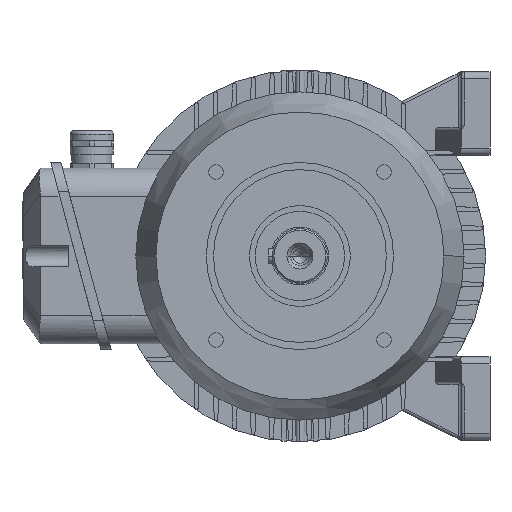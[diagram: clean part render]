
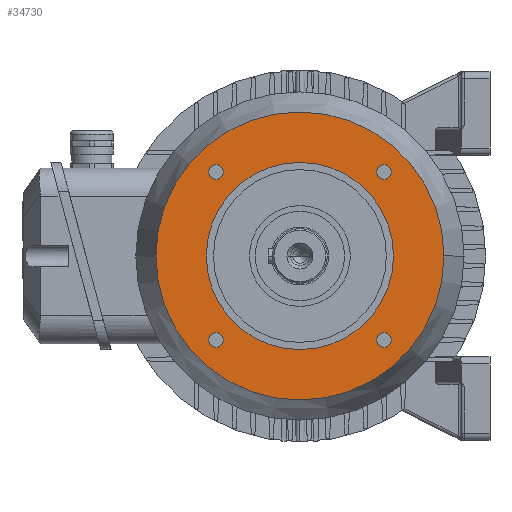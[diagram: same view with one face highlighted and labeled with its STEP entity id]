
A CAD part, left-side view. The second image highlights one B-rep face of the part: STEP entity #34730.
In plain terms, the highlighted planar face has unit normal (-1, 0, 0).
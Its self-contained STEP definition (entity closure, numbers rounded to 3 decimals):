
#75 = EDGE_CURVE ( 'NONE', #23684, #24344, #17290, .T. ) ;
#246 = AXIS2_PLACEMENT_3D ( 'NONE', #16334, #2912, #5241 ) ;
#512 = CIRCLE ( 'NONE', #8240, 5. ) ;
#1087 = CARTESIAN_POINT ( 'NONE',  ( -70., 100., 0. ) ) ;
#1116 = FACE_BOUND ( 'NONE', #2002, .T. ) ;
#1178 = EDGE_CURVE ( 'NONE', #20405, #22357, #2424, .T. ) ;
#1237 = EDGE_CURVE ( 'NONE', #24344, #23684, #20249, .T. ) ;
#1837 = CARTESIAN_POINT ( 'NONE',  ( -70., 58.336, -58.336 ) ) ;
#2002 = EDGE_LOOP ( 'NONE', ( #11729, #31726 ) ) ;
#2424 = CIRCLE ( 'NONE', #14153, 100. ) ;
#2762 = AXIS2_PLACEMENT_3D ( 'NONE', #32836, #32968, #10234 ) ;
#2912 = DIRECTION ( 'NONE',  ( 1., 0., 0. ) ) ;
#3826 = VERTEX_POINT ( 'NONE', #20651 ) ;
#3833 = EDGE_LOOP ( 'NONE', ( #7100, #27347 ) ) ;
#4234 = EDGE_CURVE ( 'NONE', #3826, #15112, #512, .T. ) ;
#4308 = CARTESIAN_POINT ( 'NONE',  ( -70., -58.336, -58.336 ) ) ;
#4520 = VERTEX_POINT ( 'NONE', #13128 ) ;
#4715 = CARTESIAN_POINT ( 'NONE',  ( -70., 0., 0. ) ) ;
#4774 = AXIS2_PLACEMENT_3D ( 'NONE', #4308, #7108, #29443 ) ;
#4821 = AXIS2_PLACEMENT_3D ( 'NONE', #31637, #20258, #26137 ) ;
#5241 = DIRECTION ( 'NONE',  ( 0., 1., 0. ) ) ;
#5412 = EDGE_CURVE ( 'NONE', #11417, #7725, #14365, .T. ) ;
#5775 = EDGE_LOOP ( 'NONE', ( #24912, #35528 ) ) ;
#5835 = DIRECTION ( 'NONE',  ( -1., 0., 0. ) ) ;
#6402 = EDGE_CURVE ( 'NONE', #22999, #25065, #23940, .T. ) ;
#7100 = ORIENTED_EDGE ( 'NONE', *, *, #24157, .F. ) ;
#7108 = DIRECTION ( 'NONE',  ( -1., 0., 0. ) ) ;
#7410 = CARTESIAN_POINT ( 'NONE',  ( -70., -53.336, 58.336 ) ) ;
#7725 = VERTEX_POINT ( 'NONE', #23985 ) ;
#7781 = CARTESIAN_POINT ( 'NONE',  ( -70., 0., 0. ) ) ;
#7972 = CARTESIAN_POINT ( 'NONE',  ( -70., 53.336, -58.336 ) ) ;
#8240 = AXIS2_PLACEMENT_3D ( 'NONE', #10840, #5835, #28047 ) ;
#8375 = CIRCLE ( 'NONE', #33959, 65. ) ;
#8729 = ORIENTED_EDGE ( 'NONE', *, *, #22396, .T. ) ;
#9727 = CIRCLE ( 'NONE', #2762, 5. ) ;
#9914 = DIRECTION ( 'NONE',  ( -1., 0., 0. ) ) ;
#10234 = DIRECTION ( 'NONE',  ( 0., -1., 0. ) ) ;
#10440 = ORIENTED_EDGE ( 'NONE', *, *, #6402, .F. ) ;
#10840 = CARTESIAN_POINT ( 'NONE',  ( -70., -58.336, -58.336 ) ) ;
#11417 = VERTEX_POINT ( 'NONE', #19911 ) ;
#11635 = CIRCLE ( 'NONE', #4774, 5. ) ;
#11729 = ORIENTED_EDGE ( 'NONE', *, *, #1237, .F. ) ;
#11816 = PLANE ( 'NONE',  #16091 ) ;
#12386 = CARTESIAN_POINT ( 'NONE',  ( -70., 0., 0. ) ) ;
#12729 = AXIS2_PLACEMENT_3D ( 'NONE', #13728, #25075, #25194 ) ;
#13128 = CARTESIAN_POINT ( 'NONE',  ( -70., -65., 0. ) ) ;
#13728 = CARTESIAN_POINT ( 'NONE',  ( -70., -58.336, 58.336 ) ) ;
#14153 = AXIS2_PLACEMENT_3D ( 'NONE', #7781, #27188, #18738 ) ;
#14365 = CIRCLE ( 'NONE', #32380, 5. ) ;
#14417 = CIRCLE ( 'NONE', #24864, 100. ) ;
#15112 = VERTEX_POINT ( 'NONE', #29586 ) ;
#15467 = AXIS2_PLACEMENT_3D ( 'NONE', #28694, #18066, #17808 ) ;
#16091 = AXIS2_PLACEMENT_3D ( 'NONE', #20453, #34286, #17907 ) ;
#16334 = CARTESIAN_POINT ( 'NONE',  ( -70., 0., 0. ) ) ;
#16845 = EDGE_CURVE ( 'NONE', #15112, #3826, #11635, .T. ) ;
#17094 = CIRCLE ( 'NONE', #246, 65. ) ;
#17290 = CIRCLE ( 'NONE', #4821, 5. ) ;
#17808 = DIRECTION ( 'NONE',  ( 0., -1., 0. ) ) ;
#17907 = DIRECTION ( 'NONE',  ( 0., 1., 0. ) ) ;
#18066 = DIRECTION ( 'NONE',  ( -1., 0., 0. ) ) ;
#18482 = DIRECTION ( 'NONE',  ( 0., 1., 0. ) ) ;
#18738 = DIRECTION ( 'NONE',  ( 0., 1., 0. ) ) ;
#19418 = FACE_BOUND ( 'NONE', #22295, .T. ) ;
#19704 = EDGE_CURVE ( 'NONE', #7725, #11417, #9727, .T. ) ;
#19911 = CARTESIAN_POINT ( 'NONE',  ( -70., 53.336, 58.336 ) ) ;
#20249 = CIRCLE ( 'NONE', #29622, 5. ) ;
#20258 = DIRECTION ( 'NONE',  ( -1., 0., 0. ) ) ;
#20405 = VERTEX_POINT ( 'NONE', #31982 ) ;
#20453 = CARTESIAN_POINT ( 'NONE',  ( -70., 65., 0. ) ) ;
#20651 = CARTESIAN_POINT ( 'NONE',  ( -70., -63.336, -58.336 ) ) ;
#20768 = ORIENTED_EDGE ( 'NONE', *, *, #16845, .F. ) ;
#21173 = FACE_OUTER_BOUND ( 'NONE', #3833, .T. ) ;
#21369 = CARTESIAN_POINT ( 'NONE',  ( -70., 58.336, 58.336 ) ) ;
#21523 = DIRECTION ( 'NONE',  ( 1., 0., 0. ) ) ;
#22295 = EDGE_LOOP ( 'NONE', ( #8729, #28936 ) ) ;
#22357 = VERTEX_POINT ( 'NONE', #1087 ) ;
#22396 = EDGE_CURVE ( 'NONE', #32468, #4520, #8375, .T. ) ;
#22469 = ORIENTED_EDGE ( 'NONE', *, *, #4234, .F. ) ;
#22999 = VERTEX_POINT ( 'NONE', #24666 ) ;
#23001 = EDGE_LOOP ( 'NONE', ( #10440, #30040 ) ) ;
#23684 = VERTEX_POINT ( 'NONE', #35011 ) ;
#23940 = CIRCLE ( 'NONE', #12729, 5. ) ;
#23985 = CARTESIAN_POINT ( 'NONE',  ( -70., 63.336, 58.336 ) ) ;
#24157 = EDGE_CURVE ( 'NONE', #22357, #20405, #14417, .T. ) ;
#24344 = VERTEX_POINT ( 'NONE', #7972 ) ;
#24605 = DIRECTION ( 'NONE',  ( -1., 0., 0. ) ) ;
#24666 = CARTESIAN_POINT ( 'NONE',  ( -70., -63.336, 58.336 ) ) ;
#24864 = AXIS2_PLACEMENT_3D ( 'NONE', #4715, #21523, #18482 ) ;
#24912 = ORIENTED_EDGE ( 'NONE', *, *, #5412, .F. ) ;
#25065 = VERTEX_POINT ( 'NONE', #7410 ) ;
#25075 = DIRECTION ( 'NONE',  ( -1., 0., 0. ) ) ;
#25194 = DIRECTION ( 'NONE',  ( 0., -1., 0. ) ) ;
#25832 = DIRECTION ( 'NONE',  ( 0., 1., 0. ) ) ;
#26137 = DIRECTION ( 'NONE',  ( 0., -1., 0. ) ) ;
#26183 = DIRECTION ( 'NONE',  ( 1., 0., 0. ) ) ;
#27188 = DIRECTION ( 'NONE',  ( 1., 0., 0. ) ) ;
#27347 = ORIENTED_EDGE ( 'NONE', *, *, #1178, .F. ) ;
#28047 = DIRECTION ( 'NONE',  ( 0., -1., 0. ) ) ;
#28694 = CARTESIAN_POINT ( 'NONE',  ( -70., -58.336, 58.336 ) ) ;
#28936 = ORIENTED_EDGE ( 'NONE', *, *, #30475, .T. ) ;
#29024 = FACE_BOUND ( 'NONE', #31888, .T. ) ;
#29443 = DIRECTION ( 'NONE',  ( 0., -1., 0. ) ) ;
#29586 = CARTESIAN_POINT ( 'NONE',  ( -70., -53.336, -58.336 ) ) ;
#29622 = AXIS2_PLACEMENT_3D ( 'NONE', #1837, #24605, #32943 ) ;
#30040 = ORIENTED_EDGE ( 'NONE', *, *, #32681, .F. ) ;
#30475 = EDGE_CURVE ( 'NONE', #4520, #32468, #17094, .T. ) ;
#30779 = FACE_BOUND ( 'NONE', #5775, .T. ) ;
#31630 = CARTESIAN_POINT ( 'NONE',  ( -70., 65., 0. ) ) ;
#31637 = CARTESIAN_POINT ( 'NONE',  ( -70., 58.336, -58.336 ) ) ;
#31726 = ORIENTED_EDGE ( 'NONE', *, *, #75, .F. ) ;
#31888 = EDGE_LOOP ( 'NONE', ( #22469, #20768 ) ) ;
#31982 = CARTESIAN_POINT ( 'NONE',  ( -70., -100., 0. ) ) ;
#32380 = AXIS2_PLACEMENT_3D ( 'NONE', #21369, #9914, #35331 ) ;
#32468 = VERTEX_POINT ( 'NONE', #31630 ) ;
#32681 = EDGE_CURVE ( 'NONE', #25065, #22999, #35818, .T. ) ;
#32836 = CARTESIAN_POINT ( 'NONE',  ( -70., 58.336, 58.336 ) ) ;
#32943 = DIRECTION ( 'NONE',  ( 0., -1., 0. ) ) ;
#32968 = DIRECTION ( 'NONE',  ( -1., 0., 0. ) ) ;
#33421 = FACE_BOUND ( 'NONE', #23001, .T. ) ;
#33959 = AXIS2_PLACEMENT_3D ( 'NONE', #12386, #26183, #25832 ) ;
#34286 = DIRECTION ( 'NONE',  ( -1., 0., 0. ) ) ;
#34730 = ADVANCED_FACE ( 'NONE', ( #21173, #29024, #33421, #30779, #1116, #19418 ), #11816, .T. ) ;
#35011 = CARTESIAN_POINT ( 'NONE',  ( -70., 63.336, -58.336 ) ) ;
#35331 = DIRECTION ( 'NONE',  ( 0., -1., 0. ) ) ;
#35528 = ORIENTED_EDGE ( 'NONE', *, *, #19704, .F. ) ;
#35818 = CIRCLE ( 'NONE', #15467, 5. ) ;
